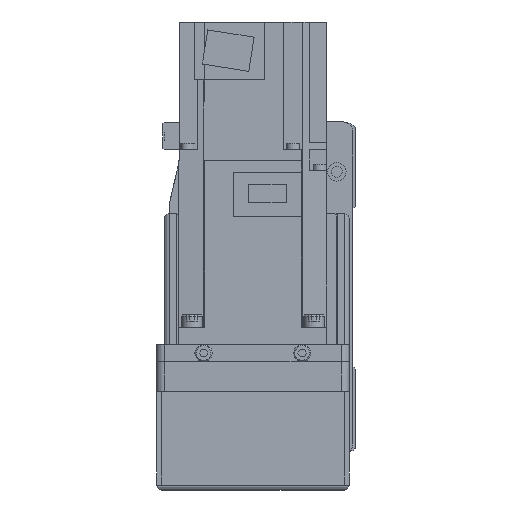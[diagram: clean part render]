
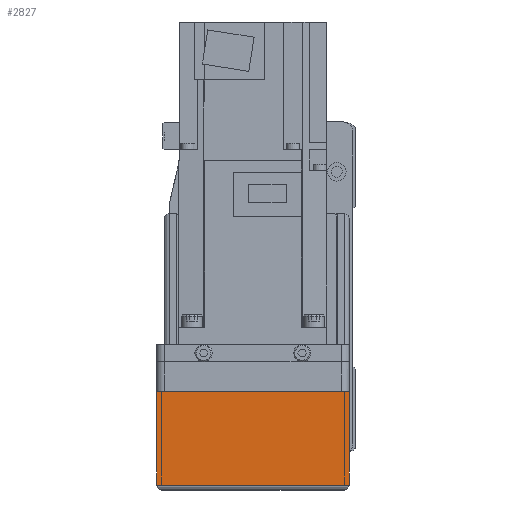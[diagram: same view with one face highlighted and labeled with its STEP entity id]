
A CAD part, left-side view. The second image highlights one B-rep face of the part: STEP entity #2827.
In plain terms, the highlighted planar face has unit normal (-1, 0, 0).
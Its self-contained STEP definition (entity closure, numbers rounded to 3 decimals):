
#2827 = ADVANCED_FACE( '', ( #6033 ), #6034, .F. );
#6033 = FACE_OUTER_BOUND( '', #9464, .T. );
#6034 = PLANE( '', #9465 );
#9464 = EDGE_LOOP( '', ( #17312, #17313, #17314, #17315 ) );
#9465 = AXIS2_PLACEMENT_3D( '', #17316, #17317, #17318 );
#17312 = ORIENTED_EDGE( '', *, *, #21627, .F. );
#17313 = ORIENTED_EDGE( '', *, *, #20730, .F. );
#17314 = ORIENTED_EDGE( '', *, *, #21282, .T. );
#17315 = ORIENTED_EDGE( '', *, *, #21503, .F. );
#17316 = CARTESIAN_POINT( '', ( -158., 36., 7. ) );
#17317 = DIRECTION( '', ( 1., 0., 0. ) );
#17318 = DIRECTION( '', ( 0., 0., -1. ) );
#20730 = EDGE_CURVE( '', #25285, #24556, #25287, .T. );
#21282 = EDGE_CURVE( '', #25285, #26128, #26130, .T. );
#21503 = EDGE_CURVE( '', #24722, #26128, #26455, .T. );
#21627 = EDGE_CURVE( '', #24556, #24722, #26626, .T. );
#24556 = VERTEX_POINT( '', #30577 );
#24722 = VERTEX_POINT( '', #30881 );
#25285 = VERTEX_POINT( '', #31916 );
#25287 = LINE( '', #31919, #31920 );
#26128 = VERTEX_POINT( '', #33261 );
#26130 = LINE( '', #33263, #33264 );
#26455 = LINE( '', #33727, #33728 );
#26626 = LINE( '', #33963, #33964 );
#30577 = CARTESIAN_POINT( '', ( -158., 39., -12.1 ) );
#30881 = CARTESIAN_POINT( '', ( -158., -39., -12.1 ) );
#31916 = CARTESIAN_POINT( '', ( -158., 39., -50. ) );
#31919 = CARTESIAN_POINT( '', ( -158., 39., -50. ) );
#31920 = VECTOR( '', #37902, 1000. );
#33261 = CARTESIAN_POINT( '', ( -158., -39., -50. ) );
#33263 = CARTESIAN_POINT( '', ( -158., 40., -50. ) );
#33264 = VECTOR( '', #38586, 1000. );
#33727 = CARTESIAN_POINT( '', ( -158., -39., -12.1 ) );
#33728 = VECTOR( '', #38855, 1000. );
#33963 = CARTESIAN_POINT( '', ( -158., 50., -12.1 ) );
#33964 = VECTOR( '', #39013, 1000. );
#37902 = DIRECTION( '', ( 0., 0., 1. ) );
#38586 = DIRECTION( '', ( 0., -1., 0. ) );
#38855 = DIRECTION( '', ( 0., 0., -1. ) );
#39013 = DIRECTION( '', ( 0., -1., 0. ) );
